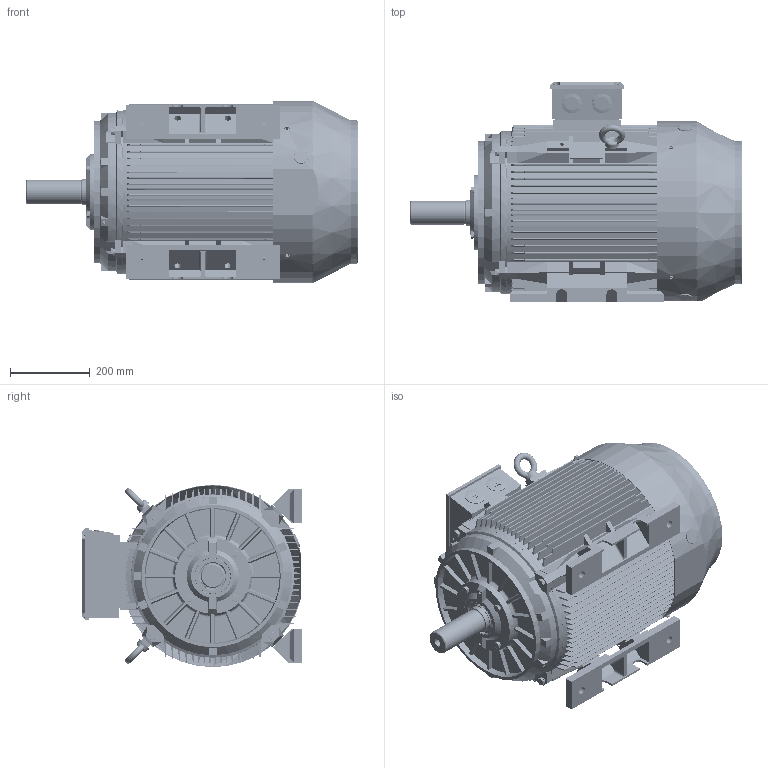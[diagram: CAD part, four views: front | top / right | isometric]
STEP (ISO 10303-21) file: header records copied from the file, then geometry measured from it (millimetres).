
FILE_DESCRIPTION (( 'STEP AP214' ), '1' );
FILE_NAME ('BCT3300.22D603.11.STEP', '2020-04-23T14:46:24', ( '' ), ( '' ), 'SwSTEP 2.0', 'SolidWorks 2019', '' );
FILE_SCHEMA (( 'AUTOMOTIVE_DESIGN' ));
Length unit declared in the file: millimetre
Products named in the file (1): BCT3300.22D603.11
Bounding box: 834.52 x 553.97 x 458.4 mm (x, y, z)
Volume: 21540628.2 mm3; surface area: 5209689.1 mm2
Topology: 53 solids, 54 shells, 8145 faces, 23524 edges, 15422 vertices
Faces by surface type: plane 4027, cylinder 3112, cone 422, torus 334, sphere 128, bspline 122
Entity records: 301386 total; most frequent: CARTESIAN_POINT 83374, ORIENTED_EDGE 46628, DIRECTION 44435, EDGE_CURVE 23314, AXIS2_PLACEMENT_3D 15477, VERTEX_POINT 15358, VECTOR 13481, LINE 13481
